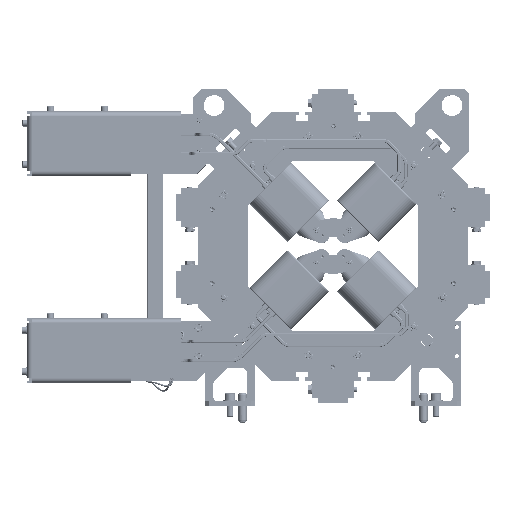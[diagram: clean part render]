
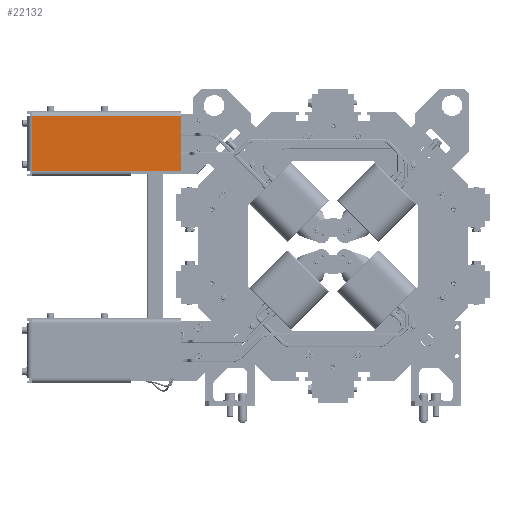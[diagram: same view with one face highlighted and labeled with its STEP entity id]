
A CAD part, top view. The second image highlights one B-rep face of the part: STEP entity #22132.
In plain terms, the highlighted planar face has unit normal (0, 0, 1).
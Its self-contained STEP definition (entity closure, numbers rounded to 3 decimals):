
#22132=ADVANCED_FACE('',(#29215),#25114,.F.);
#25114=PLANE('',#105806);
#29215=FACE_OUTER_BOUND('',#37413,.T.);
#37413=EDGE_LOOP('',(#70344,#70345,#70346,#70347,#70348));
#42493=LINE('',#176923,#47369);
#42563=LINE('',#177090,#47439);
#42568=LINE('',#177101,#47444);
#42569=LINE('',#177103,#47445);
#42570=LINE('',#177104,#47446);
#47369=VECTOR('',#130962,1.);
#47439=VECTOR('',#131088,1.);
#47444=VECTOR('',#131101,1.);
#47445=VECTOR('',#131102,1.);
#47446=VECTOR('',#131103,1.);
#70344=ORIENTED_EDGE('',*,*,#92311,.F.);
#70345=ORIENTED_EDGE('',*,*,#92305,.F.);
#70346=ORIENTED_EDGE('',*,*,#92312,.F.);
#70347=ORIENTED_EDGE('',*,*,#92220,.F.);
#70348=ORIENTED_EDGE('',*,*,#92313,.F.);
#80264=VERTEX_POINT('',#176910);
#80270=VERTEX_POINT('',#176922);
#80339=VERTEX_POINT('',#177089);
#80340=VERTEX_POINT('',#177091);
#80342=VERTEX_POINT('',#177102);
#92220=EDGE_CURVE('',#80270,#80264,#42493,.T.);
#92305=EDGE_CURVE('',#80339,#80340,#42563,.T.);
#92311=EDGE_CURVE('',#80340,#80342,#42568,.T.);
#92312=EDGE_CURVE('',#80264,#80339,#42569,.T.);
#92313=EDGE_CURVE('',#80342,#80270,#42570,.T.);
#105806=AXIS2_PLACEMENT_3D('',#177105,#131104,#131105);
#130962=DIRECTION('',(0.,-1.,0.));
#131088=DIRECTION('',(-1.,0.,0.));
#131101=DIRECTION('',(0.,1.,0.));
#131102=DIRECTION('',(-1.,0.,0.));
#131103=DIRECTION('',(1.,0.,0.));
#131104=DIRECTION('',(0.,0.,-1.));
#131105=DIRECTION('',(0.,1.,0.));
#176910=CARTESIAN_POINT('',(-182.992,90.195,27.));
#176922=CARTESIAN_POINT('',(-182.992,156.195,27.));
#176923=CARTESIAN_POINT('',(-182.992,162.195,27.));
#177089=CARTESIAN_POINT('',(-242.992,90.195,27.));
#177090=CARTESIAN_POINT('',(-182.992,90.195,27.));
#177091=CARTESIAN_POINT('',(-361.992,90.195,27.));
#177101=CARTESIAN_POINT('',(-361.992,84.195,27.));
#177102=CARTESIAN_POINT('',(-361.992,156.195,27.));
#177103=CARTESIAN_POINT('',(-182.992,90.195,27.));
#177104=CARTESIAN_POINT('',(-367.992,156.195,27.));
#177105=CARTESIAN_POINT('',(-367.992,84.195,27.));
